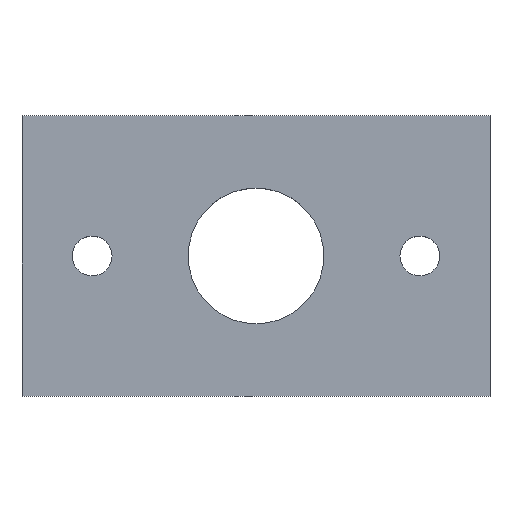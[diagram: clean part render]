
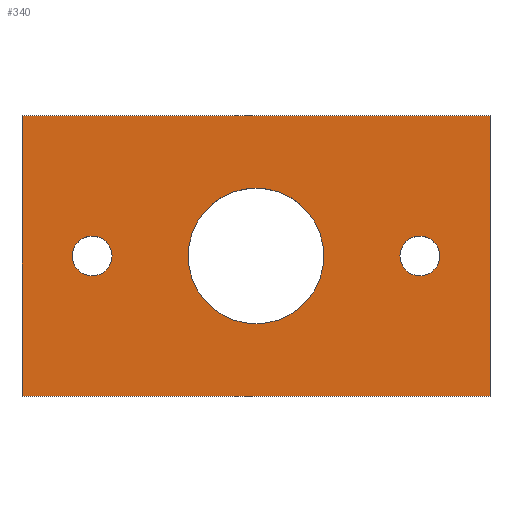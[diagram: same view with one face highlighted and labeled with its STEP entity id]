
A CAD part, top view. The second image highlights one B-rep face of the part: STEP entity #340.
In plain terms, the highlighted planar face has unit normal (0, 0, 1).
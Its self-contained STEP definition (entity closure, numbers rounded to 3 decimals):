
#1 = CARTESIAN_POINT ( 'NONE',  ( 0., 0., 2. ) ) ;
#4 = DIRECTION ( 'NONE',  ( 0., 0., 1. ) ) ;
#5 = ORIENTED_EDGE ( 'NONE', *, *, #148, .T. ) ;
#11 = VERTEX_POINT ( 'NONE', #145 ) ;
#13 = VECTOR ( 'NONE', #296, 1000. ) ;
#14 = VERTEX_POINT ( 'NONE', #218 ) ;
#15 = ORIENTED_EDGE ( 'NONE', *, *, #240, .T. ) ;
#20 = CARTESIAN_POINT ( 'NONE',  ( -20., -12., 2. ) ) ;
#24 = AXIS2_PLACEMENT_3D ( 'NONE', #369, #200, #129 ) ;
#29 = DIRECTION ( 'NONE',  ( 1., 0., 0. ) ) ;
#40 = EDGE_LOOP ( 'NONE', ( #283, #167 ) ) ;
#49 = CIRCLE ( 'NONE', #115, 5.8 ) ;
#59 = ORIENTED_EDGE ( 'NONE', *, *, #311, .F. ) ;
#63 = LINE ( 'NONE', #65, #99 ) ;
#65 = CARTESIAN_POINT ( 'NONE',  ( -20., 12., 2. ) ) ;
#69 = CIRCLE ( 'NONE', #324, 1.7 ) ;
#70 = CARTESIAN_POINT ( 'NONE',  ( -20., 12., 2. ) ) ;
#73 = ORIENTED_EDGE ( 'NONE', *, *, #393, .F. ) ;
#76 = ORIENTED_EDGE ( 'NONE', *, *, #254, .T. ) ;
#80 = ORIENTED_EDGE ( 'NONE', *, *, #277, .F. ) ;
#89 = CIRCLE ( 'NONE', #24, 1.7 ) ;
#91 = DIRECTION ( 'NONE',  ( 1., 0., 0. ) ) ;
#92 = VERTEX_POINT ( 'NONE', #289 ) ;
#95 = LINE ( 'NONE', #125, #131 ) ;
#99 = VECTOR ( 'NONE', #274, 1000. ) ;
#102 = FACE_BOUND ( 'NONE', #40, .T. ) ;
#104 = DIRECTION ( 'NONE',  ( 0., 0., 1. ) ) ;
#106 = VERTEX_POINT ( 'NONE', #360 ) ;
#107 = CARTESIAN_POINT ( 'NONE',  ( 15.7, 0., 2. ) ) ;
#108 = ORIENTED_EDGE ( 'NONE', *, *, #346, .T. ) ;
#109 = DIRECTION ( 'NONE',  ( 1., 0., 0. ) ) ;
#115 = AXIS2_PLACEMENT_3D ( 'NONE', #392, #314, #135 ) ;
#125 = CARTESIAN_POINT ( 'NONE',  ( -20., -12., 2. ) ) ;
#128 = VERTEX_POINT ( 'NONE', #259 ) ;
#129 = DIRECTION ( 'NONE',  ( 1., 0., 0. ) ) ;
#131 = VECTOR ( 'NONE', #91, 1000. ) ;
#132 = DIRECTION ( 'NONE',  ( 1., 0., 0. ) ) ;
#135 = DIRECTION ( 'NONE',  ( 1., 0., 0. ) ) ;
#140 = EDGE_LOOP ( 'NONE', ( #15, #5, #76, #108 ) ) ;
#145 = CARTESIAN_POINT ( 'NONE',  ( 5.8, 0., 2. ) ) ;
#148 = EDGE_CURVE ( 'NONE', #215, #106, #95, .T. ) ;
#161 = FACE_BOUND ( 'NONE', #459, .T. ) ;
#165 = CARTESIAN_POINT ( 'NONE',  ( -14., 0., 2. ) ) ;
#167 = ORIENTED_EDGE ( 'NONE', *, *, #400, .F. ) ;
#183 = VERTEX_POINT ( 'NONE', #190 ) ;
#187 = EDGE_CURVE ( 'NONE', #92, #355, #89, .T. ) ;
#190 = CARTESIAN_POINT ( 'NONE',  ( -5.8, 0., 2. ) ) ;
#199 = AXIS2_PLACEMENT_3D ( 'NONE', #1, #349, #390 ) ;
#200 = DIRECTION ( 'NONE',  ( 0., 0., 1. ) ) ;
#206 = FACE_OUTER_BOUND ( 'NONE', #140, .T. ) ;
#215 = VERTEX_POINT ( 'NONE', #445 ) ;
#218 = CARTESIAN_POINT ( 'NONE',  ( -15.7, 0., 2. ) ) ;
#232 = CARTESIAN_POINT ( 'NONE',  ( 20., -12., 2. ) ) ;
#240 = EDGE_CURVE ( 'NONE', #374, #215, #335, .T. ) ;
#243 = CARTESIAN_POINT ( 'NONE',  ( -12.3, 0., 2. ) ) ;
#245 = DIRECTION ( 'NONE',  ( 1., 0., 0. ) ) ;
#252 = EDGE_LOOP ( 'NONE', ( #59, #73 ) ) ;
#254 = EDGE_CURVE ( 'NONE', #106, #128, #269, .T. ) ;
#256 = CIRCLE ( 'NONE', #371, 1.7 ) ;
#259 = CARTESIAN_POINT ( 'NONE',  ( 20., 12., 2. ) ) ;
#269 = LINE ( 'NONE', #232, #449 ) ;
#274 = DIRECTION ( 'NONE',  ( -1., 0., 0. ) ) ;
#277 = EDGE_CURVE ( 'NONE', #414, #14, #69, .T. ) ;
#283 = ORIENTED_EDGE ( 'NONE', *, *, #187, .F. ) ;
#289 = CARTESIAN_POINT ( 'NONE',  ( 12.3, 0., 2. ) ) ;
#296 = DIRECTION ( 'NONE',  ( 0., -1., 0. ) ) ;
#305 = CARTESIAN_POINT ( 'NONE',  ( 0., 0., 2. ) ) ;
#310 = DIRECTION ( 'NONE',  ( 0., 0., 1. ) ) ;
#311 = EDGE_CURVE ( 'NONE', #183, #11, #49, .T. ) ;
#314 = DIRECTION ( 'NONE',  ( 0., 0., 1. ) ) ;
#324 = AXIS2_PLACEMENT_3D ( 'NONE', #353, #432, #245 ) ;
#326 = EDGE_CURVE ( 'NONE', #14, #414, #256, .T. ) ;
#335 = LINE ( 'NONE', #20, #13 ) ;
#340 = ADVANCED_FACE ( 'NONE', ( #206, #421, #161, #102 ), #345, .F. ) ;
#341 = AXIS2_PLACEMENT_3D ( 'NONE', #457, #104, #29 ) ;
#345 = PLANE ( 'NONE',  #199 ) ;
#346 = EDGE_CURVE ( 'NONE', #128, #374, #63, .T. ) ;
#349 = DIRECTION ( 'NONE',  ( 0., 0., -1. ) ) ;
#353 = CARTESIAN_POINT ( 'NONE',  ( -14., 0., 2. ) ) ;
#355 = VERTEX_POINT ( 'NONE', #107 ) ;
#357 = CIRCLE ( 'NONE', #437, 5.8 ) ;
#360 = CARTESIAN_POINT ( 'NONE',  ( 20., -12., 2. ) ) ;
#369 = CARTESIAN_POINT ( 'NONE',  ( 14., 0., 2. ) ) ;
#371 = AXIS2_PLACEMENT_3D ( 'NONE', #165, #4, #132 ) ;
#374 = VERTEX_POINT ( 'NONE', #70 ) ;
#390 = DIRECTION ( 'NONE',  ( -1., 0., 0. ) ) ;
#392 = CARTESIAN_POINT ( 'NONE',  ( 0., 0., 2. ) ) ;
#393 = EDGE_CURVE ( 'NONE', #11, #183, #357, .T. ) ;
#400 = EDGE_CURVE ( 'NONE', #355, #92, #430, .T. ) ;
#414 = VERTEX_POINT ( 'NONE', #243 ) ;
#421 = FACE_BOUND ( 'NONE', #252, .T. ) ;
#423 = DIRECTION ( 'NONE',  ( 0., 1., 0. ) ) ;
#430 = CIRCLE ( 'NONE', #341, 1.7 ) ;
#432 = DIRECTION ( 'NONE',  ( 0., 0., 1. ) ) ;
#437 = AXIS2_PLACEMENT_3D ( 'NONE', #305, #310, #109 ) ;
#445 = CARTESIAN_POINT ( 'NONE',  ( -20., -12., 2. ) ) ;
#449 = VECTOR ( 'NONE', #423, 1000. ) ;
#450 = ORIENTED_EDGE ( 'NONE', *, *, #326, .F. ) ;
#457 = CARTESIAN_POINT ( 'NONE',  ( 14., 0., 2. ) ) ;
#459 = EDGE_LOOP ( 'NONE', ( #450, #80 ) ) ;
